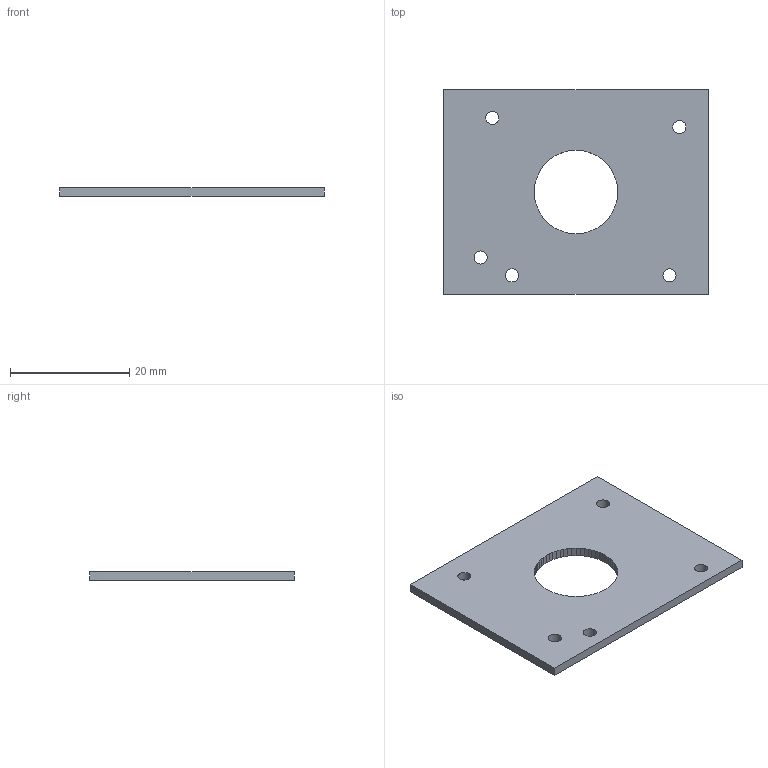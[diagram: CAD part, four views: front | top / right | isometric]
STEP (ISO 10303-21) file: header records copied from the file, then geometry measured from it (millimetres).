
FILE_DESCRIPTION(('Open CASCADE Model'),'2;1');
FILE_NAME('Open CASCADE Shape Model','1979-01-01T00:00:00',('Author'),( 'Open CASCADE'),'Open CASCADE STEP processor 8.0','Open CASCADE 8.0' ,'Unknown');
FILE_SCHEMA(('AUTOMOTIVE_DESIGN { 1 0 10303 214 1 1 1 1 }'));
Length unit declared in the file: millimetre
Products named in the file (1): Open CASCADE STEP translator 8.0 47
Bounding box: 44.4 x 34.4 x 1.5 mm (x, y, z)
Volume: 2032 mm3; surface area: 3063.5 mm2
Topology: 1 solids, 1 shells, 75 faces, 219 edges, 146 vertices
Faces by surface type: plane 70, cylinder 5
Full cylindrical faces by diameter (mm): 2.2 x5
Entity records: 5324 total; most frequent: CARTESIAN_POINT 879, DIRECTION 819, LINE 637, VECTOR 637, ORIENTED_EDGE 438, PCURVE 438, DEFINITIONAL_REPRESENTATION 438, EDGE_CURVE 219
